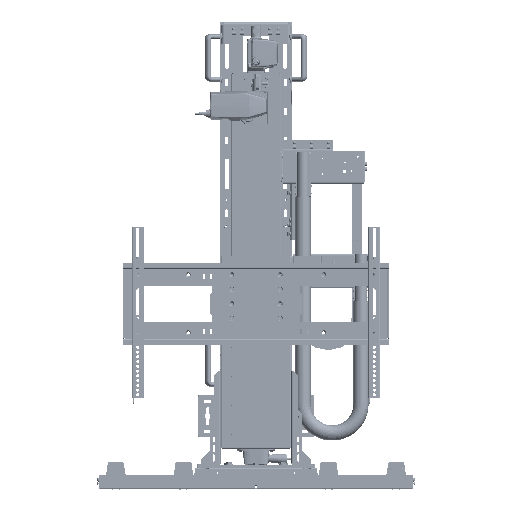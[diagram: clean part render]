
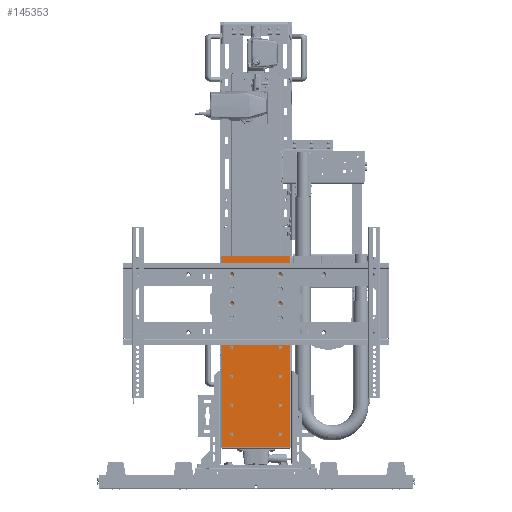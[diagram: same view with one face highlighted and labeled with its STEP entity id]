
A CAD part, front view. The second image highlights one B-rep face of the part: STEP entity #145353.
In plain terms, the highlighted planar face has unit normal (0, -1, 0) as drawn and (0, 0, 1) by its records, which use the part's own axes.
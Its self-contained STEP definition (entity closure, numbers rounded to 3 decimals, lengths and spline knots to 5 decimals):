
#12747=LINE('',#272313,#24919);
#12763=LINE('',#272357,#24935);
#12766=LINE('',#272365,#24938);
#12767=LINE('',#272366,#24939);
#24919=VECTOR('',#183480,1.);
#24935=VECTOR('',#183526,1.);
#24938=VECTOR('',#183535,1.);
#24939=VECTOR('',#183536,1.);
#48424=ORIENTED_EDGE('',*,*,#82029,.T.);
#48425=ORIENTED_EDGE('',*,*,#82001,.T.);
#48426=ORIENTED_EDGE('',*,*,#82030,.F.);
#48427=ORIENTED_EDGE('',*,*,#82025,.T.);
#48428=ORIENTED_EDGE('',*,*,#81971,.F.);
#48429=ORIENTED_EDGE('',*,*,#81969,.F.);
#48430=ORIENTED_EDGE('',*,*,#81967,.F.);
#48431=ORIENTED_EDGE('',*,*,#81965,.F.);
#48432=ORIENTED_EDGE('',*,*,#81963,.F.);
#48433=ORIENTED_EDGE('',*,*,#81961,.F.);
#48434=ORIENTED_EDGE('',*,*,#81959,.F.);
#48435=ORIENTED_EDGE('',*,*,#81957,.F.);
#48436=ORIENTED_EDGE('',*,*,#81955,.F.);
#48437=ORIENTED_EDGE('',*,*,#81953,.F.);
#48438=ORIENTED_EDGE('',*,*,#81951,.F.);
#48439=ORIENTED_EDGE('',*,*,#81949,.F.);
#81949=EDGE_CURVE('',#99715,#99715,#111600,.T.);
#81951=EDGE_CURVE('',#99717,#99717,#111602,.T.);
#81953=EDGE_CURVE('',#99719,#99719,#111604,.T.);
#81955=EDGE_CURVE('',#99721,#99721,#111606,.T.);
#81957=EDGE_CURVE('',#99723,#99723,#111608,.T.);
#81959=EDGE_CURVE('',#99725,#99725,#111610,.T.);
#81961=EDGE_CURVE('',#99727,#99727,#111612,.T.);
#81963=EDGE_CURVE('',#99729,#99729,#111614,.T.);
#81965=EDGE_CURVE('',#99731,#99731,#111616,.T.);
#81967=EDGE_CURVE('',#99733,#99733,#111618,.T.);
#81969=EDGE_CURVE('',#99735,#99735,#111620,.T.);
#81971=EDGE_CURVE('',#99737,#99737,#111622,.T.);
#82001=EDGE_CURVE('',#99759,#99760,#12747,.T.);
#82025=EDGE_CURVE('',#99772,#99771,#12763,.T.);
#82029=EDGE_CURVE('',#99771,#99759,#12766,.T.);
#82030=EDGE_CURVE('',#99772,#99760,#12767,.T.);
#99715=VERTEX_POINT('',#272197);
#99717=VERTEX_POINT('',#272202);
#99719=VERTEX_POINT('',#272207);
#99721=VERTEX_POINT('',#272212);
#99723=VERTEX_POINT('',#272217);
#99725=VERTEX_POINT('',#272222);
#99727=VERTEX_POINT('',#272227);
#99729=VERTEX_POINT('',#272232);
#99731=VERTEX_POINT('',#272237);
#99733=VERTEX_POINT('',#272242);
#99735=VERTEX_POINT('',#272247);
#99737=VERTEX_POINT('',#272252);
#99759=VERTEX_POINT('',#272314);
#99760=VERTEX_POINT('',#272315);
#99771=VERTEX_POINT('',#272356);
#99772=VERTEX_POINT('',#272358);
#111600=CIRCLE('',#158895,0.00437);
#111602=CIRCLE('',#158898,0.00437);
#111604=CIRCLE('',#158901,0.00437);
#111606=CIRCLE('',#158904,0.00437);
#111608=CIRCLE('',#158907,0.00437);
#111610=CIRCLE('',#158910,0.00437);
#111612=CIRCLE('',#158913,0.00437);
#111614=CIRCLE('',#158916,0.00437);
#111616=CIRCLE('',#158919,0.00437);
#111618=CIRCLE('',#158922,0.00437);
#111620=CIRCLE('',#158925,0.00437);
#111622=CIRCLE('',#158928,0.00437);
#119312=EDGE_LOOP('',(#48424,#48425,#48426,#48427));
#119313=EDGE_LOOP('',(#48428));
#119314=EDGE_LOOP('',(#48429));
#119315=EDGE_LOOP('',(#48430));
#119316=EDGE_LOOP('',(#48431));
#119317=EDGE_LOOP('',(#48432));
#119318=EDGE_LOOP('',(#48433));
#119319=EDGE_LOOP('',(#48434));
#119320=EDGE_LOOP('',(#48435));
#119321=EDGE_LOOP('',(#48436));
#119322=EDGE_LOOP('',(#48437));
#119323=EDGE_LOOP('',(#48438));
#119324=EDGE_LOOP('',(#48439));
#130581=FACE_BOUND('',#119312,.T.);
#130582=FACE_BOUND('',#119313,.T.);
#130583=FACE_BOUND('',#119314,.T.);
#130584=FACE_BOUND('',#119315,.T.);
#130585=FACE_BOUND('',#119316,.T.);
#130586=FACE_BOUND('',#119317,.T.);
#130587=FACE_BOUND('',#119318,.T.);
#130588=FACE_BOUND('',#119319,.T.);
#130589=FACE_BOUND('',#119320,.T.);
#130590=FACE_BOUND('',#119321,.T.);
#130591=FACE_BOUND('',#119322,.T.);
#130592=FACE_BOUND('',#119323,.T.);
#130593=FACE_BOUND('',#119324,.T.);
#139006=PLANE('',#158967);
#145353=ADVANCED_FACE('',(#130581,#130582,#130583,#130584,#130585,#130586,
#130587,#130588,#130589,#130590,#130591,#130592,#130593),#139006,.T.);
#158895=AXIS2_PLACEMENT_3D('',#272196,#183352,#183353);
#158898=AXIS2_PLACEMENT_3D('',#272201,#183358,#183359);
#158901=AXIS2_PLACEMENT_3D('',#272206,#183364,#183365);
#158904=AXIS2_PLACEMENT_3D('',#272211,#183370,#183371);
#158907=AXIS2_PLACEMENT_3D('',#272216,#183376,#183377);
#158910=AXIS2_PLACEMENT_3D('',#272221,#183382,#183383);
#158913=AXIS2_PLACEMENT_3D('',#272226,#183388,#183389);
#158916=AXIS2_PLACEMENT_3D('',#272231,#183394,#183395);
#158919=AXIS2_PLACEMENT_3D('',#272236,#183400,#183401);
#158922=AXIS2_PLACEMENT_3D('',#272241,#183406,#183407);
#158925=AXIS2_PLACEMENT_3D('',#272246,#183412,#183413);
#158928=AXIS2_PLACEMENT_3D('',#272251,#183418,#183419);
#158967=AXIS2_PLACEMENT_3D('',#272364,#183533,#183534);
#183352=DIRECTION('',(0.,0.,1.));
#183353=DIRECTION('',(1.,0.,0.));
#183358=DIRECTION('',(0.,0.,1.));
#183359=DIRECTION('',(1.,0.,0.));
#183364=DIRECTION('',(0.,0.,1.));
#183365=DIRECTION('',(1.,0.,0.));
#183370=DIRECTION('',(0.,0.,1.));
#183371=DIRECTION('',(1.,0.,0.));
#183376=DIRECTION('',(0.,0.,1.));
#183377=DIRECTION('',(1.,0.,0.));
#183382=DIRECTION('',(0.,0.,1.));
#183383=DIRECTION('',(1.,0.,0.));
#183388=DIRECTION('',(0.,0.,1.));
#183389=DIRECTION('',(1.,0.,0.));
#183394=DIRECTION('',(0.,0.,1.));
#183395=DIRECTION('',(1.,0.,0.));
#183400=DIRECTION('',(0.,0.,1.));
#183401=DIRECTION('',(1.,0.,0.));
#183406=DIRECTION('',(0.,0.,1.));
#183407=DIRECTION('',(1.,0.,0.));
#183412=DIRECTION('',(0.,0.,1.));
#183413=DIRECTION('',(1.,0.,0.));
#183418=DIRECTION('',(0.,0.,1.));
#183419=DIRECTION('',(1.,0.,0.));
#183480=DIRECTION('',(-1.,0.,0.));
#183526=DIRECTION('',(1.,0.,0.));
#183533=DIRECTION('',(0.,0.,1.));
#183534=DIRECTION('',(1.,0.,0.));
#183535=DIRECTION('',(0.,1.,0.));
#183536=DIRECTION('',(0.,1.,0.));
#272196=CARTESIAN_POINT('',(-0.0635,-0.2667,0.127));
#272197=CARTESIAN_POINT('',(-0.05913,-0.2667,0.127));
#272201=CARTESIAN_POINT('',(0.0635,-0.3429,0.127));
#272202=CARTESIAN_POINT('',(0.06787,-0.3429,0.127));
#272206=CARTESIAN_POINT('',(-0.0635,-0.3429,0.127));
#272207=CARTESIAN_POINT('',(-0.05913,-0.3429,0.127));
#272211=CARTESIAN_POINT('',(0.0635,-0.4191,0.127));
#272212=CARTESIAN_POINT('',(0.06787,-0.4191,0.127));
#272216=CARTESIAN_POINT('',(-0.0635,-0.1143,0.127));
#272217=CARTESIAN_POINT('',(-0.05913,-0.1143,0.127));
#272221=CARTESIAN_POINT('',(0.0635,-0.1905,0.127));
#272222=CARTESIAN_POINT('',(0.06787,-0.1905,0.127));
#272226=CARTESIAN_POINT('',(-0.0635,-0.1905,0.127));
#272227=CARTESIAN_POINT('',(-0.05913,-0.1905,0.127));
#272231=CARTESIAN_POINT('',(0.0635,-0.2667,0.127));
#272232=CARTESIAN_POINT('',(0.06787,-0.2667,0.127));
#272236=CARTESIAN_POINT('',(-0.0635,-0.4191,0.127));
#272237=CARTESIAN_POINT('',(-0.05913,-0.4191,0.127));
#272241=CARTESIAN_POINT('',(0.0635,-0.1143,0.127));
#272242=CARTESIAN_POINT('',(0.06787,-0.1143,0.127));
#272246=CARTESIAN_POINT('',(0.0635,-0.0381,0.127));
#272247=CARTESIAN_POINT('',(0.06787,-0.0381,0.127));
#272251=CARTESIAN_POINT('',(-0.0635,-0.0381,0.127));
#272252=CARTESIAN_POINT('',(-0.05913,-0.0381,0.127));
#272313=CARTESIAN_POINT('',(0.089,-0.00397,0.127));
#272314=CARTESIAN_POINT('',(0.089,-0.00397,0.127));
#272315=CARTESIAN_POINT('',(-0.089,-0.00397,0.127));
#272356=CARTESIAN_POINT('',(0.089,-0.508,0.127));
#272357=CARTESIAN_POINT('',(-0.09296,-0.508,0.127));
#272358=CARTESIAN_POINT('',(-0.089,-0.508,0.127));
#272364=CARTESIAN_POINT('',(-0.09296,-0.508,0.127));
#272365=CARTESIAN_POINT('',(0.089,-0.508,0.127));
#272366=CARTESIAN_POINT('',(-0.089,-0.508,0.127));
